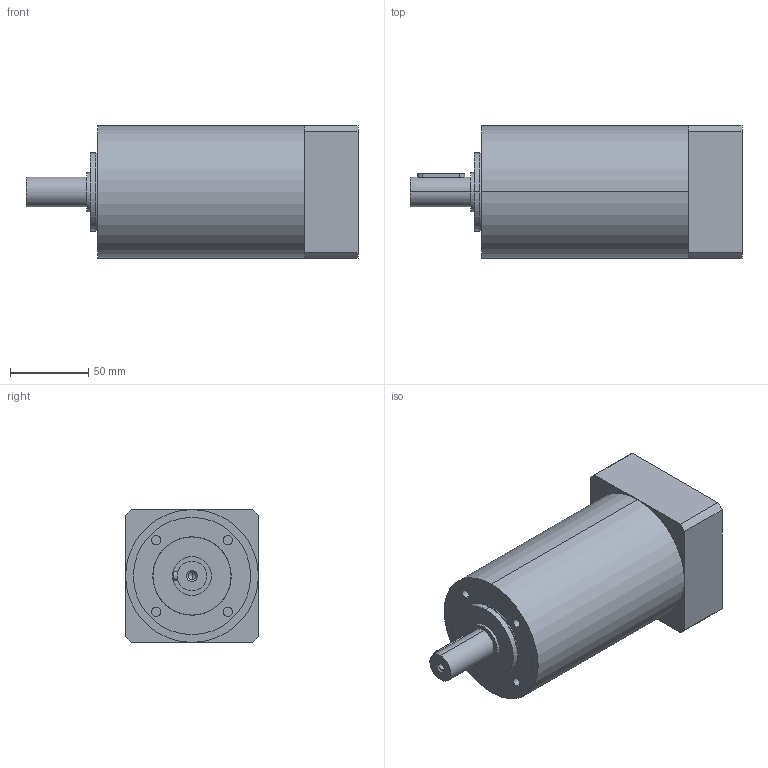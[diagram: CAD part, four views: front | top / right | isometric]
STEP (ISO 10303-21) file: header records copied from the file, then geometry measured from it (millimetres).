
FILE_DESCRIPTION (( 'STEP AP214' ), '1' );
FILE_NAME ('HTRG08N___MHN34x14M_3stage_10.STEP', '2019-10-13T22:38:33', ( '' ), ( '' ), 'SwSTEP 2.0', 'SolidWorks 2018', '' );
FILE_SCHEMA (( 'AUTOMOTIVE_DESIGN' ));
Length unit declared in the file: millimetre
Products named in the file (1): HTRG08N___MHN34x14M_3stage_10
Bounding box: 212.5 x 85 x 85 mm (x, y, z)
Volume: 971281 mm3; surface area: 119102.1 mm2
Topology: 9 solids, 9 shells, 179 faces, 391 edges, 248 vertices
Faces by surface type: cylinder 86, plane 60, cone 27, bspline 6
Entity records: 5766 total; most frequent: CARTESIAN_POINT 1577, DIRECTION 909, ORIENTED_EDGE 774, EDGE_CURVE 387, AXIS2_PLACEMENT_3D 375, VERTEX_POINT 248, EDGE_LOOP 217, CIRCLE 201
